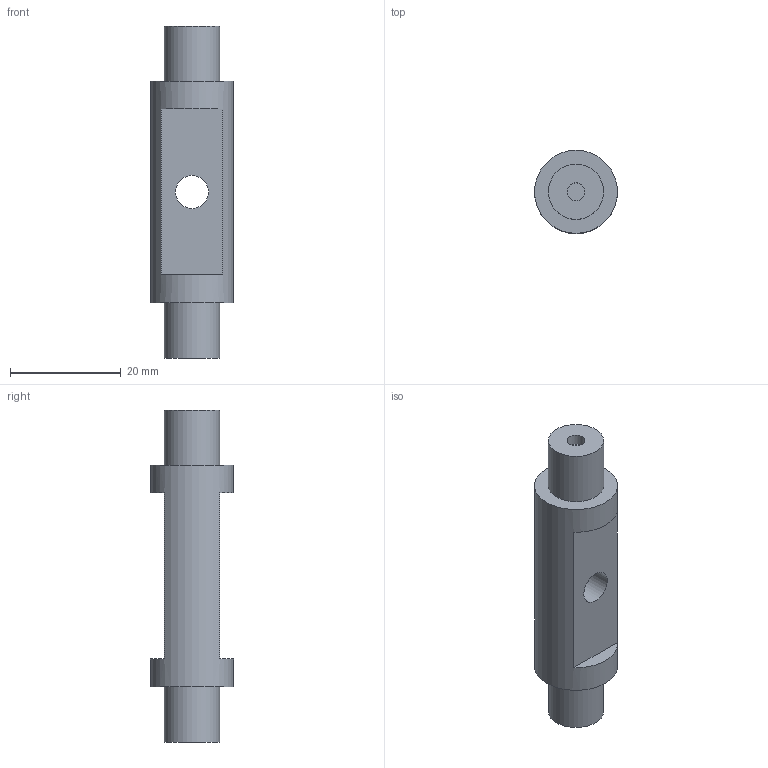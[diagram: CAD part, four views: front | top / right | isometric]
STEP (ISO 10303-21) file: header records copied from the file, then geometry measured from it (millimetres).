
FILE_DESCRIPTION(/* description */ ('STEP AP242','CAx-IF Rec.Pracs.---Representation and Presentation of Product Manufacturing Information (PMI)---4.0---2014-10-13','CAx-IF Rec.Pracs.---3D Tessellated Geometry---0.4---2014-09-14','2;1'),/* implementation_level */ '2;1');
FILE_NAME(/* name */ 'C20 - Barrel 60mm - Barell 60mm',/* time_stamp */ '2024-12-05T09:23:59Z',/* author */ (''),/* organization */ (''),/* preprocessor_version */ 'ST-DEVELOPER v20',/* originating_system */ 'ONSHAPE BY PTC INC, 1.190',/* authorisation */ ' ');
FILE_SCHEMA (('AP242_MANAGED_MODEL_BASED_3D_ENGINEERING_MIM_LF { 1 0 10303 442 1 1 4 }'));
Length unit declared in the file: metre
Products named in the file (1): Barell 60mm
Bounding box: 15 x 15 x 60 mm (x, y, z)
Volume: 7162.9 mm3; surface area: 3030.2 mm2
Topology: 1 solids, 1 shells, 18 faces, 31 edges, 21 vertices
Faces by surface type: plane 12, cylinder 6
Full cylindrical faces by diameter (mm): 3.2 x2, 6 x1, 10 x2, 15 x1
Entity records: 426 total; most frequent: DIRECTION 78, CARTESIAN_POINT 63, ORIENTED_EDGE 48, AXIS2_PLACEMENT_3D 35, EDGE_LOOP 32, FACE_BOUND 32, EDGE_CURVE 24, VERTEX_POINT 20
